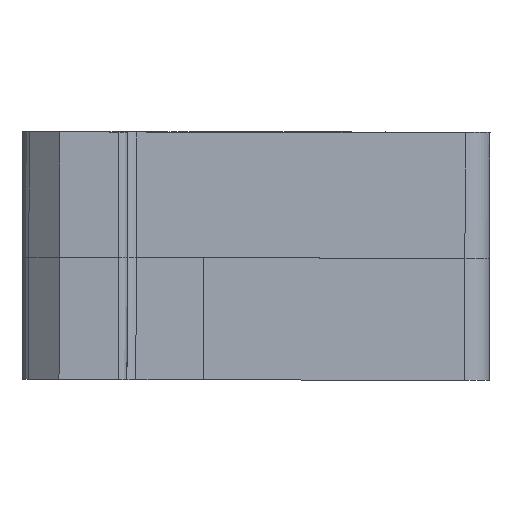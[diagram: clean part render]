
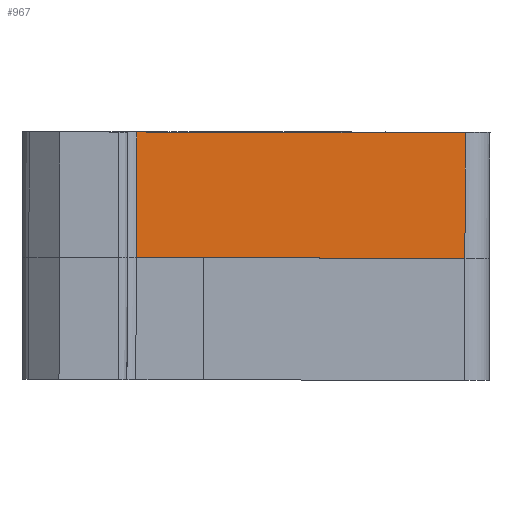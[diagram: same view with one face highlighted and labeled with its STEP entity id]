
A CAD part, top view. The second image highlights one B-rep face of the part: STEP entity #967.
In plain terms, the highlighted planar face has unit normal (0.054, -0.003, 0.999).
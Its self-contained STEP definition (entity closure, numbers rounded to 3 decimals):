
#33 = ORIENTED_EDGE ( 'NONE', *, *, #3378, .F. ) ;
#121 = CARTESIAN_POINT ( 'NONE',  ( -235.46, -12.786, 523.259 ) ) ;
#245 = AXIS2_PLACEMENT_3D ( 'NONE', #291, #4230, #1874 ) ;
#289 = VECTOR ( 'NONE', #2916, 1000. ) ;
#291 = CARTESIAN_POINT ( 'NONE',  ( -225.441, -5.612, 522.734 ) ) ;
#327 = VERTEX_POINT ( 'NONE', #4181 ) ;
#408 = VERTEX_POINT ( 'NONE', #2355 ) ;
#465 = EDGE_LOOP ( 'NONE', ( #2469, #33, #1254, #750 ) ) ;
#577 = PLANE ( 'NONE',  #245 ) ;
#616 = FACE_OUTER_BOUND ( 'NONE', #465, .T. ) ;
#750 = ORIENTED_EDGE ( 'NONE', *, *, #868, .T. ) ;
#843 = DIRECTION ( 'NONE',  ( -0.003, -1., -0.003 ) ) ;
#868 = EDGE_CURVE ( 'NONE', #2329, #3224, #1807, .T. ) ;
#929 = VECTOR ( 'NONE', #1572, 1000. ) ;
#967 = ADVANCED_FACE ( 'NONE', ( #616 ), #577, .T. ) ;
#1254 = ORIENTED_EDGE ( 'NONE', *, *, #2014, .T. ) ;
#1420 = CARTESIAN_POINT ( 'NONE',  ( -225.441, -5.612, 522.734 ) ) ;
#1572 = DIRECTION ( 'NONE',  ( -0.003, -1., -0.003 ) ) ;
#1584 = CARTESIAN_POINT ( 'NONE',  ( -225.46, -12.812, 522.714 ) ) ;
#1807 = LINE ( 'NONE', #3566, #929 ) ;
#1831 = DIRECTION ( 'NONE',  ( -0.999, 0.003, 0.054 ) ) ;
#1874 = DIRECTION ( 'NONE',  ( 0.999, 0., -0.054 ) ) ;
#2014 = EDGE_CURVE ( 'NONE', #408, #2329, #3459, .T. ) ;
#2329 = VERTEX_POINT ( 'NONE', #4137 ) ;
#2355 = CARTESIAN_POINT ( 'NONE',  ( -216.587, -5.635, 522.251 ) ) ;
#2469 = ORIENTED_EDGE ( 'NONE', *, *, #3930, .F. ) ;
#2916 = DIRECTION ( 'NONE',  ( -0.999, 0.003, 0.054 ) ) ;
#3021 = VECTOR ( 'NONE', #843, 1000. ) ;
#3072 = CARTESIAN_POINT ( 'NONE',  ( -216.587, -5.635, 522.251 ) ) ;
#3224 = VERTEX_POINT ( 'NONE', #121 ) ;
#3378 = EDGE_CURVE ( 'NONE', #408, #327, #3788, .T. ) ;
#3459 = LINE ( 'NONE', #1420, #4026 ) ;
#3566 = CARTESIAN_POINT ( 'NONE',  ( -235.44, -5.586, 523.279 ) ) ;
#3788 = LINE ( 'NONE', #3072, #3021 ) ;
#3930 = EDGE_CURVE ( 'NONE', #327, #3224, #4220, .T. ) ;
#4026 = VECTOR ( 'NONE', #1831, 1000. ) ;
#4137 = CARTESIAN_POINT ( 'NONE',  ( -235.44, -5.586, 523.279 ) ) ;
#4181 = CARTESIAN_POINT ( 'NONE',  ( -216.607, -12.835, 522.231 ) ) ;
#4220 = LINE ( 'NONE', #1584, #289 ) ;
#4230 = DIRECTION ( 'NONE',  ( 0.054, -0.003, 0.999 ) ) ;
